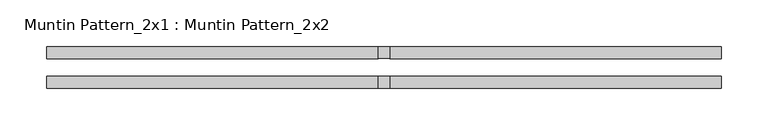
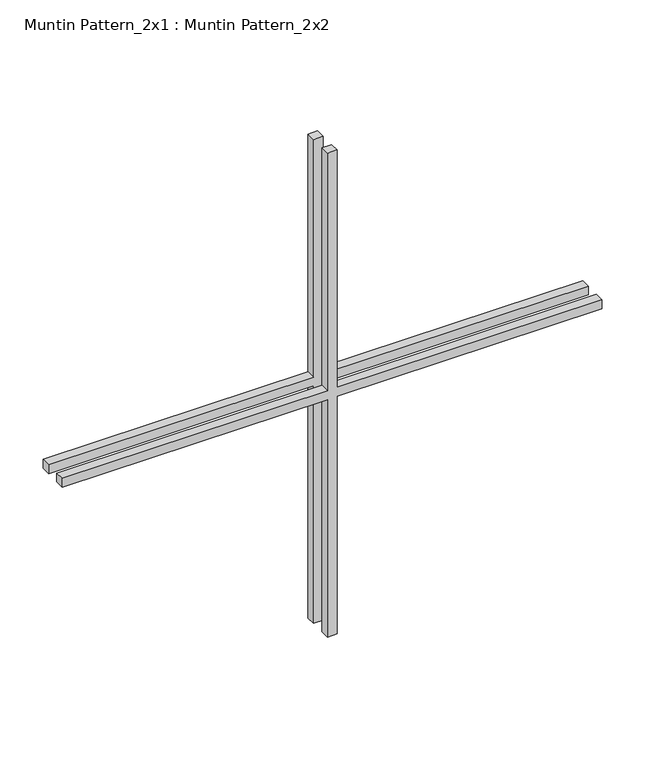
"""IFC4 building model written with IfcOpenShell, lengths in millimetres: proxy geometry, Muntin Pattern_2x1 : Muntin Pattern_2x2."""

from ifc_helpers import new_model, si_unit, frame, origin, place, context, project, spatial, polyline, outline, extrude, source, transform, mapped, element, save


def muntin_pattern_2x1_muntin_pattern_2x2_0f8a5302(model_context):
    return source(origin(), model_context, "Body", "SweptSolid", [
        extrude(outline(polyline([(349.2455927, -6.35), (349.2455927, -361.95), (336.5455927, -361.95), (336.5455927, -6.35), (0.0, -6.35), (0.0, 6.35), (336.5455927, 6.35), (336.5455927, 361.95), (349.2455927, 361.95), (349.2455927, 6.35), (685.7911855, 6.35), (685.7911855, -6.35), (349.2455927, -6.35)])), frame((0.0, 9.525, 0.0), z_axis=(0.0, 1.0, 0.0), x_axis=(0.0, 0.0, 1.0)), (0.0, 0.0, 1.0), 12.7),
        extrude(outline(polyline([(349.2455927, -6.35), (349.2455927, -361.95), (336.5455927, -361.95), (336.5455927, -6.35), (0.0, -6.35), (0.0, 6.35), (336.5455927, 6.35), (336.5455927, 361.95), (349.2455927, 361.95), (349.2455927, 6.35), (685.7911855, 6.35), (685.7911855, -6.35), (349.2455927, -6.35)])), frame((0.0, -22.225, 0.0), z_axis=(0.0, 1.0, 0.0), x_axis=(0.0, 0.0, 1.0)), (0.0, 0.0, 1.0), 12.7),
    ])


if __name__ == "__main__":
    model = new_model("IFC4")
    model_context = context("Model", 3, world=origin())
    ifc_project = project(units=[si_unit("LENGTHUNIT", "METRE", prefix="MILLI")], contexts=[model_context])
    site = spatial("IfcSite", under=ifc_project)
    building = spatial("IfcBuilding", under=site)
    placement = place(None, origin())
    muntin_pattern_2x1_muntin_pattern_2x2_shape = muntin_pattern_2x1_muntin_pattern_2x2_0f8a5302(model_context)
    element("IfcBuildingElementProxy", 1, Name="Muntin Pattern_2x1 : Muntin Pattern_2x2", ObjectType="Muntin Pattern_2x1 : Muntin Pattern_2x2", at=placement, inside=building, context=model_context, shape_type="MappedRepresentation", body=[
        mapped(muntin_pattern_2x1_muntin_pattern_2x2_shape, transform((0.0, 0.0, 0.0), x_axis=(1.0, 0.0, 0.0), y_axis=(0.0, 1.0, 0.0), z_axis=(0.0, 0.0, 1.0))),
    ])
    save(model, "model.ifc")
